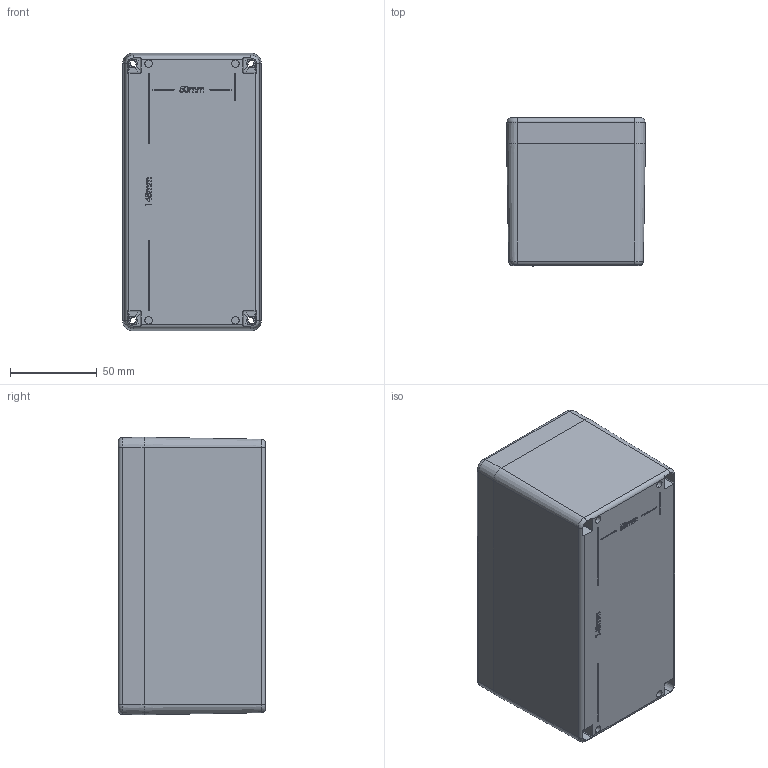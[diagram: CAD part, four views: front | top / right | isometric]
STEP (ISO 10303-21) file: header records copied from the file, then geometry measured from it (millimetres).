
FILE_DESCRIPTION (( 'STEP AP214' ), '1' );
FILE_NAME ('ZP 8 asm.STEP', '2014-10-27T11:34:21', ( '' ), ( '' ), 'SwSTEP 2.0', 'SolidWorks 2014', '' );
FILE_SCHEMA (( 'AUTOMOTIVE_DESIGN' ));
Length unit declared in the file: millimetre
Products named in the file (3): ZP 8 asm; ZP 8 Base; ZP 8 lid
Assembly tree (2 placements, depth 2):
  ZP 8 asm
    ZP 8 Base
    ZP 8 lid
Bounding box: 80 x 85.25 x 160 mm (x, y, z)
Volume: 189677.3 mm3; surface area: 150335.3 mm2
Topology: 2 solids, 2 shells, 789 faces, 2112 edges, 1366 vertices
Faces by surface type: plane 458, cone 176, cylinder 77, bspline 70, torus 8
Entity records: 28536 total; most frequent: CARTESIAN_POINT 8946, ORIENTED_EDGE 4184, DIRECTION 3828, EDGE_CURVE 2092, VECTOR 1396, LINE 1396, VERTEX_POINT 1366, AXIS2_PLACEMENT_3D 1216
